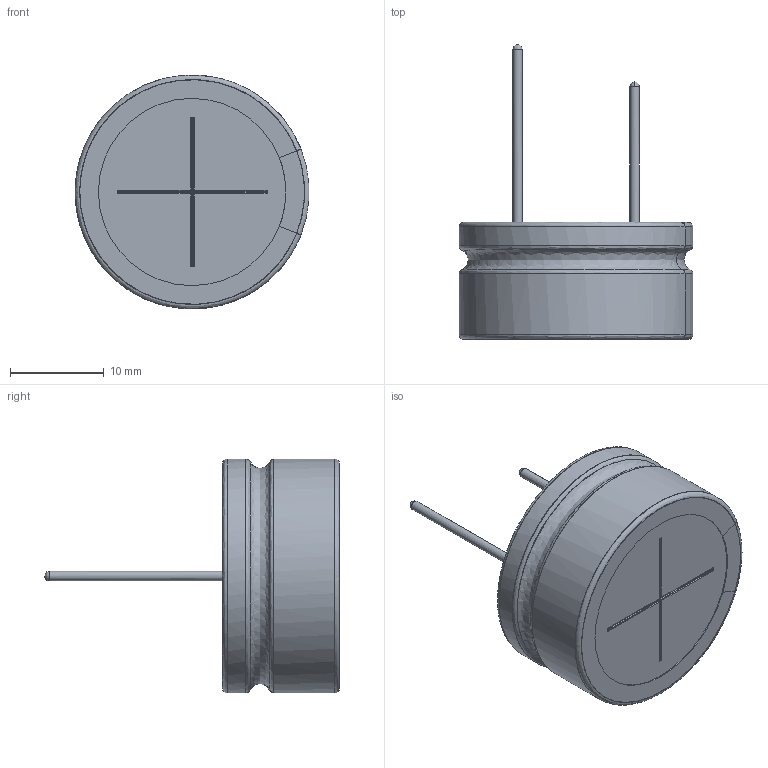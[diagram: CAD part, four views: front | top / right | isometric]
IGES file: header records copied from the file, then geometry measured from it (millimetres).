
Start section: JAMA-IS VERSION  1.0
Bounding box: 24.95 x 31.5 x 24.96 mm (x, y, z)
Surface area: 4757.9 mm2 (no closed solid volume)
Topology: 0 solids, 0 shells, 100 faces, 1480 edges, 1460 vertices
Faces by surface type: bspline 100
